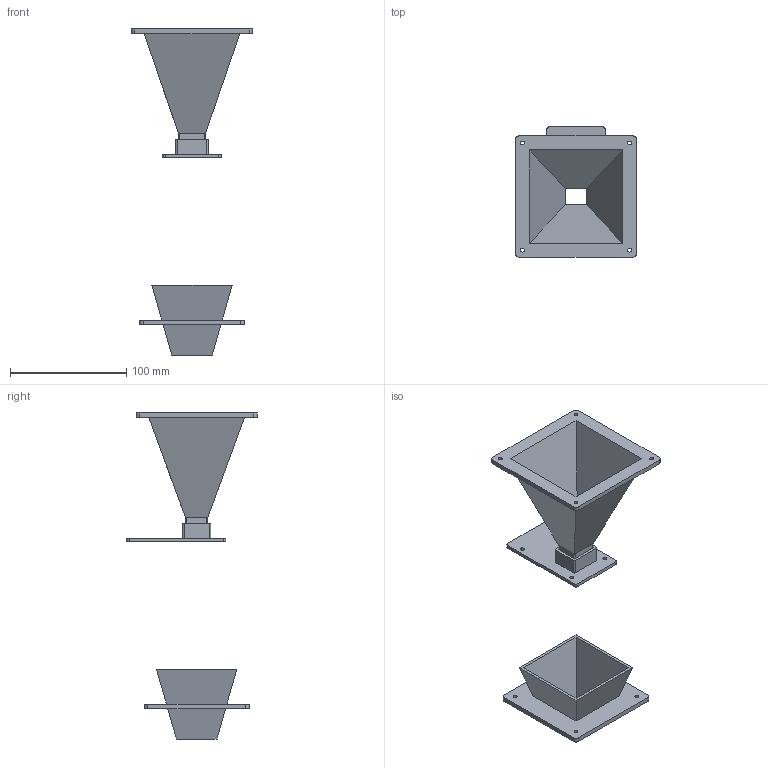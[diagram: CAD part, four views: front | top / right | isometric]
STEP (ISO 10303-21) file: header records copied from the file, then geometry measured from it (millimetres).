
FILE_DESCRIPTION(('Open CASCADE Model'),'2;1');
FILE_NAME('Open CASCADE Shape Model','2026-10-22T00:34:13',('Author'),( 'Open CASCADE'),'Open CASCADE STEP processor 7.8','Open CASCADE 7.8' ,'Unknown');
FILE_SCHEMA(('AUTOMOTIVE_DESIGN { 1 0 10303 214 1 1 1 1 }'));
Length unit declared in the file: millimetre
Products named in the file (4): H3-P1_printed_parts_assembly_REFERENCE_ONLY; upper-hopper-mm; upper-adapter-mm; lower-collector-mm
Assembly tree (3 placements, depth 2):
  H3-P1_printed_parts_assembly_REFERENCE_ONLY
    upper-hopper-mm
    upper-adapter-mm
    lower-collector-mm
Bounding box: 104 x 112 x 280 mm (x, y, z)
Volume: 130930.1 mm3; surface area: 97785.3 mm2
Topology: 3 solids, 3 shells, 104 faces, 268 edges, 176 vertices
Faces by surface type: plane 44, cylinder 36, bspline 24
Full cylindrical faces by diameter (mm): 3.4 x12
Entity records: 6801 total; most frequent: CARTESIAN_POINT 1572, DIRECTION 866, ORIENTED_EDGE 536, PCURVE 536, DEFINITIONAL_REPRESENTATION 536, LINE 528, VECTOR 528, EDGE_CURVE 268
